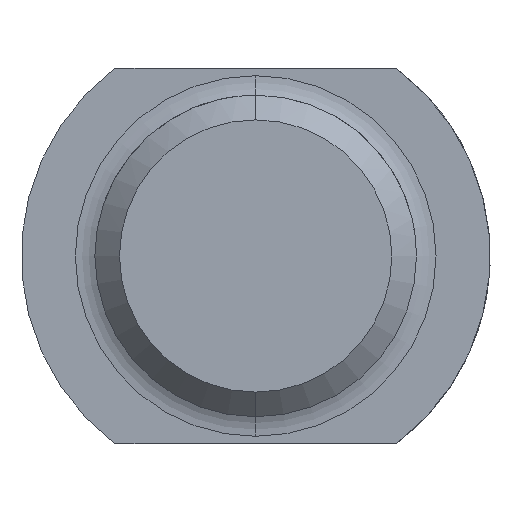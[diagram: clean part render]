
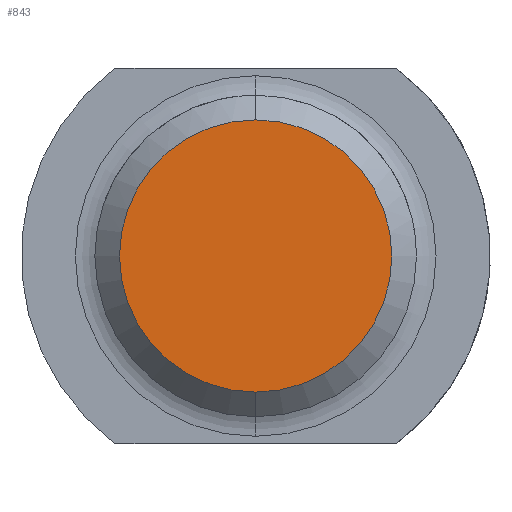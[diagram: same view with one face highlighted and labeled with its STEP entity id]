
A CAD part, left-side view. The second image highlights one B-rep face of the part: STEP entity #843.
In plain terms, the highlighted planar face has unit normal (-1, 0, 0).
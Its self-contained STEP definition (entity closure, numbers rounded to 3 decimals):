
#703=CARTESIAN_POINT('Vertex',(-35.,0.,-10.159)) ;
#706=CARTESIAN_POINT('Axis2P3D Location',(-35.,0.,0.)) ;
#710=CARTESIAN_POINT('Vertex',(-35.,10.159,0.)) ;
#713=CARTESIAN_POINT('Axis2P3D Location',(-35.,0.,0.)) ;
#717=CARTESIAN_POINT('Vertex',(-35.,0.,10.159)) ;
#739=CARTESIAN_POINT('Axis2P3D Location',(-35.,0.,0.)) ;
#743=CARTESIAN_POINT('Vertex',(-35.,-10.159,0.)) ;
#746=CARTESIAN_POINT('Axis2P3D Location',(-35.,0.,0.)) ;
#832=CARTESIAN_POINT('Axis2P3D Location',(-35.,0.,0.)) ;
#707=DIRECTION('Axis2P3D Direction',(1.,0.,-0.)) ;
#714=DIRECTION('Axis2P3D Direction',(1.,0.,-0.)) ;
#740=DIRECTION('Axis2P3D Direction',(1.,0.,-0.)) ;
#747=DIRECTION('Axis2P3D Direction',(1.,0.,-0.)) ;
#833=DIRECTION('Axis2P3D Direction',(1.,0.,-0.)) ;
#834=DIRECTION('Axis2P3D XDirection',(-0.,0.,-1.)) ;
#708=AXIS2_PLACEMENT_3D('Circle Axis2P3D',#706,#707,$) ;
#715=AXIS2_PLACEMENT_3D('Circle Axis2P3D',#713,#714,$) ;
#741=AXIS2_PLACEMENT_3D('Circle Axis2P3D',#739,#740,$) ;
#748=AXIS2_PLACEMENT_3D('Circle Axis2P3D',#746,#747,$) ;
#835=AXIS2_PLACEMENT_3D('Plane Axis2P3D',#832,#833,#834) ;
#838=ORIENTED_EDGE('',*,*,#712,.F.) ;
#839=ORIENTED_EDGE('',*,*,#750,.F.) ;
#840=ORIENTED_EDGE('',*,*,#745,.F.) ;
#841=ORIENTED_EDGE('',*,*,#719,.F.) ;
#843=ADVANCED_FACE('AGS3411M24',(#842),#836,.F.) ;
#709=CIRCLE('generated circle',#708,10.16) ;
#716=CIRCLE('generated circle',#715,10.16) ;
#742=CIRCLE('generated circle',#741,10.16) ;
#749=CIRCLE('generated circle',#748,10.16) ;
#712=EDGE_CURVE('',#704,#711,#709,.T.) ;
#719=EDGE_CURVE('',#711,#718,#716,.T.) ;
#745=EDGE_CURVE('',#718,#744,#742,.T.) ;
#750=EDGE_CURVE('',#744,#704,#749,.T.) ;
#837=EDGE_LOOP('',(#838,#839,#840,#841)) ;
#842=FACE_OUTER_BOUND('',#837,.T.) ;
#836=PLANE('Plane',#835) ;
#704=VERTEX_POINT('',#703) ;
#711=VERTEX_POINT('',#710) ;
#718=VERTEX_POINT('',#717) ;
#744=VERTEX_POINT('',#743) ;
